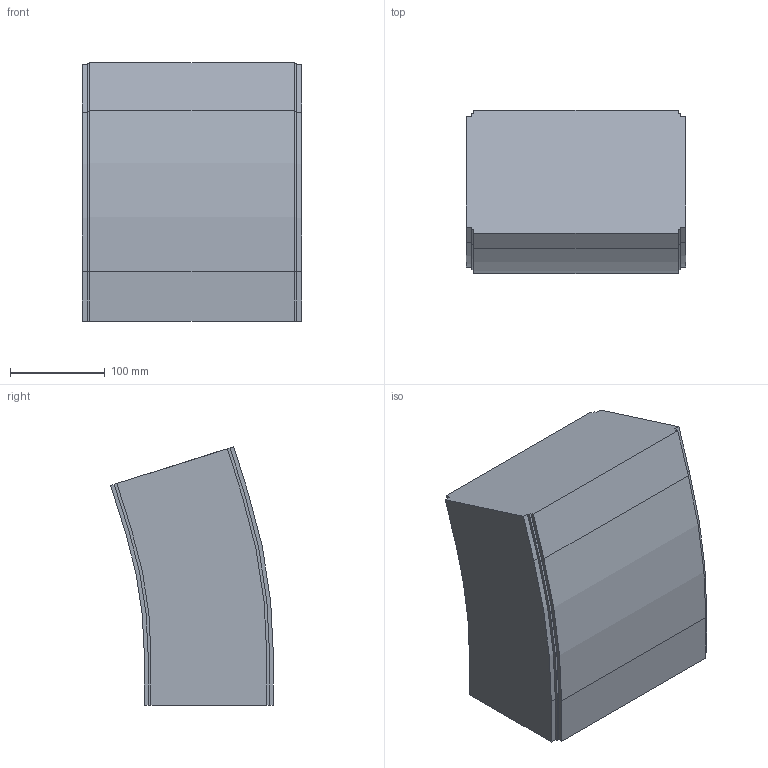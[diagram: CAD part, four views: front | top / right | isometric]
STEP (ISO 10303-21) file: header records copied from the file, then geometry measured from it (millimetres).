
FILE_DESCRIPTION (( 'STEP AP214' ), '1' );
FILE_NAME ('FS-MTC2-150-INOX verticaalbocht.230 17,5°.STEP', '2017-02-08T12:41:54', ( '' ), ( '' ), 'SwSTEP 2.0', 'SolidWorks 2016', '' );
FILE_SCHEMA (( 'AUTOMOTIVE_DESIGN' ));
Length unit declared in the file: millimetre
Products named in the file (1): FS-MTC2-150-INOX verticaalbocht.230 17,5°
Bounding box: 232.5 x 172.27 x 273.45 mm (x, y, z)
Volume: 8126168.9 mm3; surface area: 253257.5 mm2
Topology: 1 solids, 1 shells, 42 faces, 120 edges, 80 vertices
Faces by surface type: plane 32, cylinder 10
Entity records: 1398 total; most frequent: CARTESIAN_POINT 243, ORIENTED_EDGE 240, DIRECTION 226, EDGE_CURVE 120, VECTOR 100, LINE 100, VERTEX_POINT 80, AXIS2_PLACEMENT_3D 63
